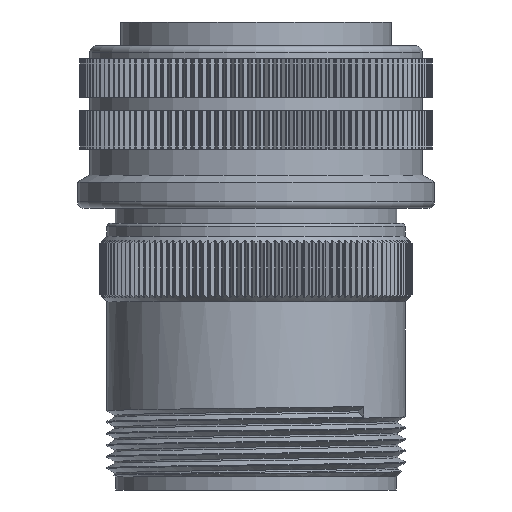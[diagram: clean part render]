
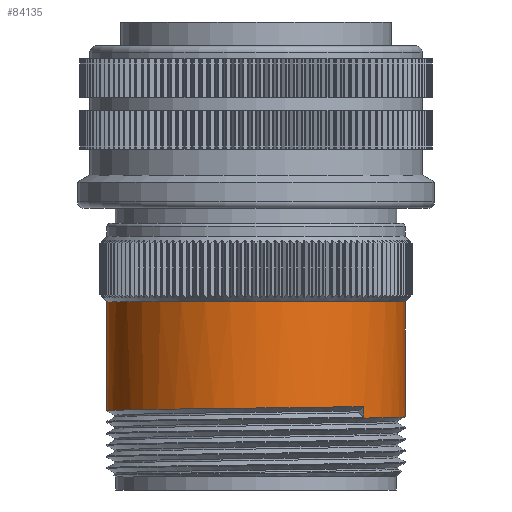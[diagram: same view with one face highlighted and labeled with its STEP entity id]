
A CAD part, front view. The second image highlights one B-rep face of the part: STEP entity #84135.
In plain terms, the highlighted cylindrical face has radius 18.21 mm (diameter 36.42 mm), a partial arc.
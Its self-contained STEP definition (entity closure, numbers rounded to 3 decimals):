
#14 = ORIENTED_EDGE ( 'NONE', *, *, #122310, .F. ) ;
#179 = EDGE_CURVE ( 'NONE', #77003, #9960, #86383, .T. ) ;
#2457 = CARTESIAN_POINT ( 'NONE',  ( -18.21, -7.543, -48.805 ) ) ;
#4626 = CARTESIAN_POINT ( 'NONE',  ( -7.543, -18.21, -48.517 ) ) ;
#6670 = ORIENTED_EDGE ( 'NONE', *, *, #65977, .T. ) ;
#7313 = ORIENTED_EDGE ( 'NONE', *, *, #107385, .T. ) ;
#8321 = CARTESIAN_POINT ( 'NONE',  ( 13.16, -12.587, -47.381 ) ) ;
#8768 = CARTESIAN_POINT ( 'NONE',  ( -12.876, -12.876, -47.305 ) ) ;
#9125 = EDGE_LOOP ( 'NONE', ( #14, #72685, #73244, #105063, #108675, #6670, #7313, #63266 ) ) ;
#9960 = VERTEX_POINT ( 'NONE', #46221 ) ;
#12310 = CARTESIAN_POINT ( 'NONE',  ( -7.543, -18.21, -48.628 ) ) ;
#15869 =( BOUNDED_CURVE ( )  B_SPLINE_CURVE ( 2, ( #47837, #106522, #126279, #67570, #8768, #77406, #18670, #87220, #28477, #97089, #38362 ),
 .UNSPECIFIED., .F., .F. ) 
 B_SPLINE_CURVE_WITH_KNOTS ( ( 3, 2, 2, 2, 2, 3 ),
 ( 0.911, 0.911, 0.929, 0.946, 0.964, 0.965 ),
 .UNSPECIFIED. ) 
 CURVE ( )  GEOMETRIC_REPRESENTATION_ITEM ( )  RATIONAL_B_SPLINE_CURVE ( ( 1., 1., 1., 0.924, 1., 0.924, 1., 0.924, 1., 0.998, 0.996 ) ) 
 REPRESENTATION_ITEM ( '' )  );
#18261 = CIRCLE ( 'NONE', #96006, 18.21 ) ;
#18670 = CARTESIAN_POINT ( 'NONE',  ( 0., -18.21, -47.129 ) ) ;
#21405 = CARTESIAN_POINT ( 'NONE',  ( -18.21, 0., -19.504 ) ) ;
#22172 = CARTESIAN_POINT ( 'NONE',  ( 7.543, -18.21, -48.452 ) ) ;
#24657 = VERTEX_POINT ( 'NONE', #110794 ) ;
#27217 = VECTOR ( 'NONE', #125402, 1000. ) ;
#28033 = CARTESIAN_POINT ( 'NONE',  ( 13.16, -12.587, -47.814 ) ) ;
#28477 = CARTESIAN_POINT ( 'NONE',  ( 12.876, -12.876, -46.952 ) ) ;
#29580 = CARTESIAN_POINT ( 'NONE',  ( -18.21, 0., -34.16 ) ) ;
#32040 = CARTESIAN_POINT ( 'NONE',  ( 18.21, -7.543, -48.275 ) ) ;
#36148 = EDGE_CURVE ( 'NONE', #110902, #50574, #61038, .T. ) ;
#38362 = CARTESIAN_POINT ( 'NONE',  ( 13.16, -12.587, -46.948 ) ) ;
#41773 = CARTESIAN_POINT ( 'NONE',  ( 0., -18.21, -48.429 ) ) ;
#43870 = DIRECTION ( 'NONE',  ( 1., 0., 0. ) ) ;
#43875 = CARTESIAN_POINT ( 'NONE',  ( 0., 0., -34.16 ) ) ;
#44416 = VERTEX_POINT ( 'NONE', #57141 ) ;
#46221 = CARTESIAN_POINT ( 'NONE',  ( 13.16, -12.587, -48.248 ) ) ;
#47199 = CARTESIAN_POINT ( 'NONE',  ( -18.21, 0., -48.782 ) ) ;
#47837 = CARTESIAN_POINT ( 'NONE',  ( -18.21, 0., -47.482 ) ) ;
#48802 = FACE_OUTER_BOUND ( 'NONE', #9125, .T. ) ;
#50572 = CARTESIAN_POINT ( 'NONE',  ( -18.21, 0., -47.482 ) ) ;
#50574 = VERTEX_POINT ( 'NONE', #29580 ) ;
#51378 = CARTESIAN_POINT ( 'NONE',  ( -18.21, 0., -48.893 ) ) ;
#53802 = DIRECTION ( 'NONE',  ( 1., 0., 0. ) ) ;
#57141 = CARTESIAN_POINT ( 'NONE',  ( -18.21, 0., -48.893 ) ) ;
#59080 = CARTESIAN_POINT ( 'NONE',  ( -18.21, 0., -19.504 ) ) ;
#61038 = LINE ( 'NONE', #59080, #110052 ) ;
#61244 = CARTESIAN_POINT ( 'NONE',  ( -18.21, 0., -48.893 ) ) ;
#61921 = AXIS2_PLACEMENT_3D ( 'NONE', #121938, #102643, #43870 ) ;
#63266 = ORIENTED_EDGE ( 'NONE', *, *, #179, .F. ) ;
#64492 = EDGE_CURVE ( 'NONE', #72988, #24657, #79414, .T. ) ;
#65634 = CYLINDRICAL_SURFACE ( 'NONE', #61921, 18.21 ) ;
#65977 = EDGE_CURVE ( 'NONE', #110902, #78254, #15869, .T. ) ;
#67570 = CARTESIAN_POINT ( 'NONE',  ( -18.21, -7.543, -47.393 ) ) ;
#70964 = CARTESIAN_POINT ( 'NONE',  ( 13.02, -12.733, -48.25 ) ) ;
#71063 = CARTESIAN_POINT ( 'NONE',  ( -12.876, -12.876, -48.716 ) ) ;
#72685 = ORIENTED_EDGE ( 'NONE', *, *, #76520, .T. ) ;
#72800 = CARTESIAN_POINT ( 'NONE',  ( 7.543, -18.21, -48.341 ) ) ;
#72988 = VERTEX_POINT ( 'NONE', #78738 ) ;
#73244 = ORIENTED_EDGE ( 'NONE', *, *, #64492, .T. ) ;
#73402 = CARTESIAN_POINT ( 'NONE',  ( -18.21, 0., -48.782 ) ) ;
#76520 = EDGE_CURVE ( 'NONE', #44416, #72988, #78051, .T. ) ;
#76962 = CARTESIAN_POINT ( 'NONE',  ( 13.16, -12.587, -46.948 ) ) ;
#77003 = VERTEX_POINT ( 'NONE', #109460 ) ;
#77406 = CARTESIAN_POINT ( 'NONE',  ( -7.543, -18.21, -47.217 ) ) ;
#78051 =( BOUNDED_CURVE ( )  B_SPLINE_CURVE ( 2, ( #51378, #110055, #61244, #2457, #71063, #12310, #80895, #22172, #90738, #32040, #100630 ),
 .UNSPECIFIED., .F., .F. ) 
 B_SPLINE_CURVE_WITH_KNOTS ( ( 3, 2, 2, 2, 2, 3 ),
 ( 0.768, 0.768, 0.786, 0.804, 0.821, 0.839 ),
 .UNSPECIFIED. ) 
 CURVE ( )  GEOMETRIC_REPRESENTATION_ITEM ( )  RATIONAL_B_SPLINE_CURVE ( ( 1., 1., 1., 0.924, 1., 0.924, 1., 0.924, 1., 0.924, 1. ) ) 
 REPRESENTATION_ITEM ( '' )  );
#78254 = VERTEX_POINT ( 'NONE', #104760 ) ;
#78738 = CARTESIAN_POINT ( 'NONE',  ( 18.21, 0., -48.187 ) ) ;
#78747 = DIRECTION ( 'NONE',  ( 0., 0., 1. ) ) ;
#79414 = LINE ( 'NONE', #115538, #27217 ) ;
#80895 = CARTESIAN_POINT ( 'NONE',  ( 0., -18.21, -48.54 ) ) ;
#83877 = CARTESIAN_POINT ( 'NONE',  ( 13.16, -12.587, -48.248 ) ) ;
#84135 = ADVANCED_FACE ( 'NONE', ( #48802 ), #65634, .T. ) ;
#86383 =( BOUNDED_CURVE ( )  B_SPLINE_CURVE ( 2, ( #47199, #97325, #73402, #102402, #122120, #4626, #41773, #72800, #86412, #70964, #83877 ),
 .UNSPECIFIED., .F., .F. ) 
 B_SPLINE_CURVE_WITH_KNOTS ( ( 3, 2, 2, 2, 2, 3 ),
 ( 0.911, 0.911, 0.929, 0.946, 0.964, 0.965 ),
 .UNSPECIFIED. ) 
 CURVE ( )  GEOMETRIC_REPRESENTATION_ITEM ( )  RATIONAL_B_SPLINE_CURVE ( ( 1., 1., 1., 0.924, 1., 0.924, 1., 0.924, 1., 0.998, 0.996 ) ) 
 REPRESENTATION_ITEM ( '' )  );
#86412 = CARTESIAN_POINT ( 'NONE',  ( 12.876, -12.876, -48.252 ) ) ;
#87220 = CARTESIAN_POINT ( 'NONE',  ( 7.543, -18.21, -47.041 ) ) ;
#90176 = B_SPLINE_CURVE_WITH_KNOTS ( 'NONE', 3,
 ( #76962, #8321, #28033, #96635 ),
 .UNSPECIFIED., .F., .F.,
 ( 4, 4 ),
 ( 0., 1. ),
 .UNSPECIFIED. ) ;
#90738 = CARTESIAN_POINT ( 'NONE',  ( 12.876, -12.876, -48.364 ) ) ;
#90777 = EDGE_CURVE ( 'NONE', #50574, #24657, #18261, .T. ) ;
#96006 = AXIS2_PLACEMENT_3D ( 'NONE', #43875, #112487, #53802 ) ;
#96635 = CARTESIAN_POINT ( 'NONE',  ( 13.16, -12.587, -48.248 ) ) ;
#97089 = CARTESIAN_POINT ( 'NONE',  ( 13.02, -12.733, -46.95 ) ) ;
#97325 = CARTESIAN_POINT ( 'NONE',  ( -18.21, 0., -48.782 ) ) ;
#98183 = LINE ( 'NONE', #21405, #124274 ) ;
#99853 = DIRECTION ( 'NONE',  ( 0., 0., 1. ) ) ;
#100630 = CARTESIAN_POINT ( 'NONE',  ( 18.21, 0., -48.187 ) ) ;
#102402 = CARTESIAN_POINT ( 'NONE',  ( -18.21, -7.543, -48.693 ) ) ;
#102643 = DIRECTION ( 'NONE',  ( 0., 0., 1. ) ) ;
#104760 = CARTESIAN_POINT ( 'NONE',  ( 13.16, -12.587, -46.948 ) ) ;
#105063 = ORIENTED_EDGE ( 'NONE', *, *, #90777, .F. ) ;
#106522 = CARTESIAN_POINT ( 'NONE',  ( -18.21, 0., -47.482 ) ) ;
#107385 = EDGE_CURVE ( 'NONE', #78254, #9960, #90176, .T. ) ;
#108675 = ORIENTED_EDGE ( 'NONE', *, *, #36148, .F. ) ;
#109460 = CARTESIAN_POINT ( 'NONE',  ( -18.21, 0., -48.782 ) ) ;
#110052 = VECTOR ( 'NONE', #78747, 1000. ) ;
#110055 = CARTESIAN_POINT ( 'NONE',  ( -18.21, 0., -48.893 ) ) ;
#110794 = CARTESIAN_POINT ( 'NONE',  ( 18.21, 0., -34.16 ) ) ;
#110902 = VERTEX_POINT ( 'NONE', #50572 ) ;
#112487 = DIRECTION ( 'NONE',  ( 0., 0., 1. ) ) ;
#115538 = CARTESIAN_POINT ( 'NONE',  ( 18.21, 0., -19.504 ) ) ;
#121938 = CARTESIAN_POINT ( 'NONE',  ( 0., 0., -19.504 ) ) ;
#122120 = CARTESIAN_POINT ( 'NONE',  ( -12.876, -12.876, -48.605 ) ) ;
#122310 = EDGE_CURVE ( 'NONE', #44416, #77003, #98183, .T. ) ;
#124274 = VECTOR ( 'NONE', #99853, 1000. ) ;
#125402 = DIRECTION ( 'NONE',  ( 0., 0., 1. ) ) ;
#126279 = CARTESIAN_POINT ( 'NONE',  ( -18.21, 0., -47.482 ) ) ;
